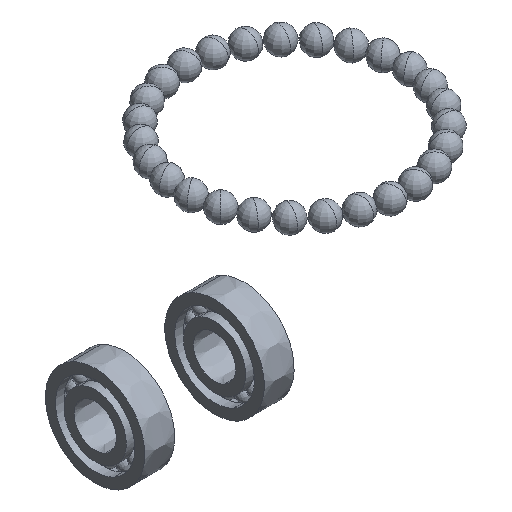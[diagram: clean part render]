
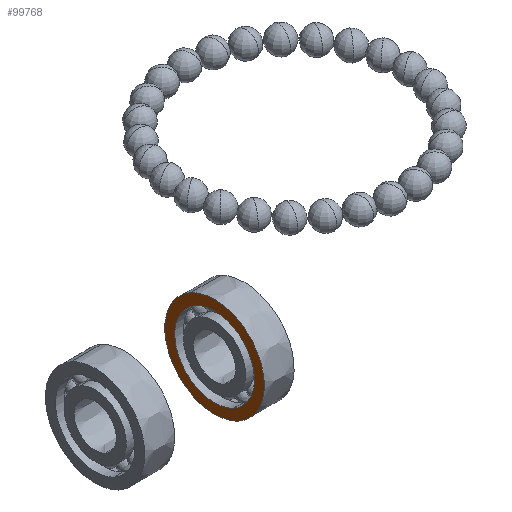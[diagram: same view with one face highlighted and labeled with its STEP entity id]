
A CAD part, isometric view. The second image highlights one B-rep face of the part: STEP entity #99768.
In plain terms, the highlighted planar face has unit normal (-1, 0, 0).
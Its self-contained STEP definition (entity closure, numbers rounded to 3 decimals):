
#1848 = B_SPLINE_CURVE_WITH_KNOTS ( 'NONE', 3,
 ( #65846, #65949, #65950, #65951, #65952, #65953, #65954, #65955, #65956, #65957, #65958, #65959, #65960, #65961, #65962, #65963, #65964, #65965, #65966 ),
 .UNSPECIFIED., .F., .F.,
 ( 4, 3, 3, 3, 3, 3, 4 ),
 ( -0.057, -0.047, -0.037, -0.026, -0.016, -0.005, 0.005 ),
 .UNSPECIFIED. ) ;
#1854 = B_SPLINE_CURVE_WITH_KNOTS ( 'NONE', 3,
 ( #65967, #65988, #65989, #65990, #65991, #65992, #65993, #65994, #65995, #65996, #65997, #65998, #65999, #66000, #66001, #66002, #66003, #66004, #66005 ),
 .UNSPECIFIED., .F., .F.,
 ( 4, 3, 3, 3, 3, 3, 4 ),
 ( -0.046, -0.038, -0.029, -0.021, -0.013, -0.004, 0.004 ),
 .UNSPECIFIED. ) ;
#1857 = B_SPLINE_CURVE_WITH_KNOTS ( 'NONE', 3,
 ( #65987, #66006, #66007, #66008, #66009, #66010, #66011, #66012, #66013, #66014, #66015, #66016, #66017, #66018, #66019, #66020, #66021, #66022, #66023 ),
 .UNSPECIFIED., .F., .F.,
 ( 4, 3, 3, 3, 3, 3, 4 ),
 ( -0.046, -0.038, -0.029, -0.021, -0.013, -0.004, 0.004 ),
 .UNSPECIFIED. ) ;
#1869 = B_SPLINE_CURVE_WITH_KNOTS ( 'NONE', 3,
 ( #66065, #66116, #66117, #66118, #66119, #66120, #66121, #66122, #66123, #66124, #66125, #66126, #66127, #66128, #66129, #66130, #66131, #66132, #66133 ),
 .UNSPECIFIED., .F., .F.,
 ( 4, 3, 3, 3, 3, 3, 4 ),
 ( -0.057, -0.047, -0.037, -0.026, -0.016, -0.005, 0.005 ),
 .UNSPECIFIED. ) ;
#13589 = VERTEX_POINT ( 'NONE', #75310 ) ;
#13591 = VERTEX_POINT ( 'NONE', #75303 ) ;
#13597 = VERTEX_POINT ( 'NONE', #75280 ) ;
#13599 = VERTEX_POINT ( 'NONE', #75277 ) ;
#35089 = EDGE_LOOP ( 'NONE', ( #104548, #103954 ) ) ;
#38138 = AXIS2_PLACEMENT_3D ( 'NONE', #63084, #63089, #63091 ) ;
#63084 = CARTESIAN_POINT ( 'NONE',  ( 18., 70.035, -143.035 ) ) ;
#63086 = PLANE ( 'NONE',  #38138 ) ;
#63089 = DIRECTION ( 'NONE',  ( 1., 0., 0. ) ) ;
#63091 = DIRECTION ( 'NONE',  ( 0., 0., 1. ) ) ;
#65846 = CARTESIAN_POINT ( 'NONE',  ( 18., 59.589, -105.448 ) ) ;
#65949 = CARTESIAN_POINT ( 'NONE',  ( 18., 62.669, -107.131 ) ) ;
#65950 = CARTESIAN_POINT ( 'NONE',  ( 18., 65.253, -109.596 ) ) ;
#65951 = CARTESIAN_POINT ( 'NONE',  ( 18., 67.08, -112.594 ) ) ;
#65952 = CARTESIAN_POINT ( 'NONE',  ( 18., 68.906, -115.592 ) ) ;
#65953 = CARTESIAN_POINT ( 'NONE',  ( 18., 69.912, -119.018 ) ) ;
#65954 = CARTESIAN_POINT ( 'NONE',  ( 18., 69.994, -122.528 ) ) ;
#65955 = CARTESIAN_POINT ( 'NONE',  ( 18., 70.077, -126.038 ) ) ;
#65956 = CARTESIAN_POINT ( 'NONE',  ( 18., 69.235, -129.508 ) ) ;
#65957 = CARTESIAN_POINT ( 'NONE',  ( 18., 67.552, -132.589 ) ) ;
#65958 = CARTESIAN_POINT ( 'NONE',  ( 18., 65.869, -135.669 ) ) ;
#65959 = CARTESIAN_POINT ( 'NONE',  ( 18., 63.404, -138.253 ) ) ;
#65960 = CARTESIAN_POINT ( 'NONE',  ( 18., 60.406, -140.08 ) ) ;
#65961 = CARTESIAN_POINT ( 'NONE',  ( 18., 57.408, -141.906 ) ) ;
#65962 = CARTESIAN_POINT ( 'NONE',  ( 18., 53.982, -142.912 ) ) ;
#65963 = CARTESIAN_POINT ( 'NONE',  ( 18., 50.472, -142.994 ) ) ;
#65964 = CARTESIAN_POINT ( 'NONE',  ( 18., 46.962, -143.077 ) ) ;
#65965 = CARTESIAN_POINT ( 'NONE',  ( 18., 43.492, -142.235 ) ) ;
#65966 = CARTESIAN_POINT ( 'NONE',  ( 18., 40.411, -140.552 ) ) ;
#65967 = CARTESIAN_POINT ( 'NONE',  ( 18., 42.329, -137.041 ) ) ;
#65987 = CARTESIAN_POINT ( 'NONE',  ( 18., 57.671, -108.959 ) ) ;
#65988 = CARTESIAN_POINT ( 'NONE',  ( 18., 39.864, -135.695 ) ) ;
#65989 = CARTESIAN_POINT ( 'NONE',  ( 18., 37.798, -133.723 ) ) ;
#65990 = CARTESIAN_POINT ( 'NONE',  ( 18., 36.336, -131.325 ) ) ;
#65991 = CARTESIAN_POINT ( 'NONE',  ( 18., 34.875, -128.926 ) ) ;
#65992 = CARTESIAN_POINT ( 'NONE',  ( 18., 34.071, -126.185 ) ) ;
#65993 = CARTESIAN_POINT ( 'NONE',  ( 18., 34.004, -123.378 ) ) ;
#65994 = CARTESIAN_POINT ( 'NONE',  ( 18., 33.938, -120.57 ) ) ;
#65995 = CARTESIAN_POINT ( 'NONE',  ( 18., 34.612, -117.794 ) ) ;
#65996 = CARTESIAN_POINT ( 'NONE',  ( 18., 35.959, -115.329 ) ) ;
#65997 = CARTESIAN_POINT ( 'NONE',  ( 18., 37.305, -112.864 ) ) ;
#65998 = CARTESIAN_POINT ( 'NONE',  ( 18., 39.277, -110.798 ) ) ;
#65999 = CARTESIAN_POINT ( 'NONE',  ( 18., 41.675, -109.336 ) ) ;
#66000 = CARTESIAN_POINT ( 'NONE',  ( 18., 44.074, -107.875 ) ) ;
#66001 = CARTESIAN_POINT ( 'NONE',  ( 18., 46.815, -107.071 ) ) ;
#66002 = CARTESIAN_POINT ( 'NONE',  ( 18., 49.622, -107.004 ) ) ;
#66003 = CARTESIAN_POINT ( 'NONE',  ( 18., 52.43, -106.938 ) ) ;
#66004 = CARTESIAN_POINT ( 'NONE',  ( 18., 55.206, -107.612 ) ) ;
#66005 = CARTESIAN_POINT ( 'NONE',  ( 18., 57.671, -108.959 ) ) ;
#66006 = CARTESIAN_POINT ( 'NONE',  ( 18., 60.136, -110.305 ) ) ;
#66007 = CARTESIAN_POINT ( 'NONE',  ( 18., 62.202, -112.277 ) ) ;
#66008 = CARTESIAN_POINT ( 'NONE',  ( 18., 63.664, -114.675 ) ) ;
#66009 = CARTESIAN_POINT ( 'NONE',  ( 18., 65.125, -117.074 ) ) ;
#66010 = CARTESIAN_POINT ( 'NONE',  ( 18., 65.929, -119.815 ) ) ;
#66011 = CARTESIAN_POINT ( 'NONE',  ( 18., 65.996, -122.622 ) ) ;
#66012 = CARTESIAN_POINT ( 'NONE',  ( 18., 66.062, -125.43 ) ) ;
#66013 = CARTESIAN_POINT ( 'NONE',  ( 18., 65.388, -128.206 ) ) ;
#66014 = CARTESIAN_POINT ( 'NONE',  ( 18., 64.041, -130.671 ) ) ;
#66015 = CARTESIAN_POINT ( 'NONE',  ( 18., 62.695, -133.136 ) ) ;
#66016 = CARTESIAN_POINT ( 'NONE',  ( 18., 60.723, -135.202 ) ) ;
#66017 = CARTESIAN_POINT ( 'NONE',  ( 18., 58.325, -136.664 ) ) ;
#66018 = CARTESIAN_POINT ( 'NONE',  ( 18., 55.926, -138.125 ) ) ;
#66019 = CARTESIAN_POINT ( 'NONE',  ( 18., 53.185, -138.929 ) ) ;
#66020 = CARTESIAN_POINT ( 'NONE',  ( 18., 50.378, -138.996 ) ) ;
#66021 = CARTESIAN_POINT ( 'NONE',  ( 18., 47.57, -139.062 ) ) ;
#66022 = CARTESIAN_POINT ( 'NONE',  ( 18., 44.794, -138.388 ) ) ;
#66023 = CARTESIAN_POINT ( 'NONE',  ( 18., 42.329, -137.041 ) ) ;
#66065 = CARTESIAN_POINT ( 'NONE',  ( 18., 40.411, -140.552 ) ) ;
#66116 = CARTESIAN_POINT ( 'NONE',  ( 18., 37.331, -138.869 ) ) ;
#66117 = CARTESIAN_POINT ( 'NONE',  ( 18., 34.747, -136.404 ) ) ;
#66118 = CARTESIAN_POINT ( 'NONE',  ( 18., 32.92, -133.406 ) ) ;
#66119 = CARTESIAN_POINT ( 'NONE',  ( 18., 31.094, -130.408 ) ) ;
#66120 = CARTESIAN_POINT ( 'NONE',  ( 18., 30.088, -126.982 ) ) ;
#66121 = CARTESIAN_POINT ( 'NONE',  ( 18., 30.006, -123.472 ) ) ;
#66122 = CARTESIAN_POINT ( 'NONE',  ( 18., 29.923, -119.962 ) ) ;
#66123 = CARTESIAN_POINT ( 'NONE',  ( 18., 30.765, -116.492 ) ) ;
#66124 = CARTESIAN_POINT ( 'NONE',  ( 18., 32.448, -113.411 ) ) ;
#66125 = CARTESIAN_POINT ( 'NONE',  ( 18., 34.131, -110.331 ) ) ;
#66126 = CARTESIAN_POINT ( 'NONE',  ( 18., 36.596, -107.747 ) ) ;
#66127 = CARTESIAN_POINT ( 'NONE',  ( 18., 39.594, -105.92 ) ) ;
#66128 = CARTESIAN_POINT ( 'NONE',  ( 18., 42.592, -104.094 ) ) ;
#66129 = CARTESIAN_POINT ( 'NONE',  ( 18., 46.018, -103.088 ) ) ;
#66130 = CARTESIAN_POINT ( 'NONE',  ( 18., 49.528, -103.006 ) ) ;
#66131 = CARTESIAN_POINT ( 'NONE',  ( 18., 53.038, -102.923 ) ) ;
#66132 = CARTESIAN_POINT ( 'NONE',  ( 18., 56.508, -103.765 ) ) ;
#66133 = CARTESIAN_POINT ( 'NONE',  ( 18., 59.589, -105.448 ) ) ;
#75277 = CARTESIAN_POINT ( 'NONE',  ( 18., 42.329, -137.041 ) ) ;
#75280 = CARTESIAN_POINT ( 'NONE',  ( 18., 57.671, -108.959 ) ) ;
#75303 = CARTESIAN_POINT ( 'NONE',  ( 18., 59.589, -105.448 ) ) ;
#75310 = CARTESIAN_POINT ( 'NONE',  ( 18., 40.411, -140.552 ) ) ;
#87121 = EDGE_CURVE ( 'NONE', #13591, #13589, #1848, .T. ) ;
#87123 = EDGE_CURVE ( 'NONE', #13599, #13597, #1854, .T. ) ;
#87124 = EDGE_CURVE ( 'NONE', #13597, #13599, #1857, .T. ) ;
#87129 = EDGE_CURVE ( 'NONE', #13589, #13591, #1869, .T. ) ;
#92134 = FACE_BOUND ( 'NONE', #104378, .T. ) ;
#92284 = FACE_OUTER_BOUND ( 'NONE', #35089, .T. ) ;
#99768 = ADVANCED_FACE ( 'NONE', ( #92134, #92284 ), #63086, .F. ) ;
#103954 = ORIENTED_EDGE ( 'NONE', *, *, #87129, .T. ) ;
#104378 = EDGE_LOOP ( 'NONE', ( #104545, #104537 ) ) ;
#104537 = ORIENTED_EDGE ( 'NONE', *, *, #87123, .F. ) ;
#104545 = ORIENTED_EDGE ( 'NONE', *, *, #87124, .F. ) ;
#104548 = ORIENTED_EDGE ( 'NONE', *, *, #87121, .T. ) ;
